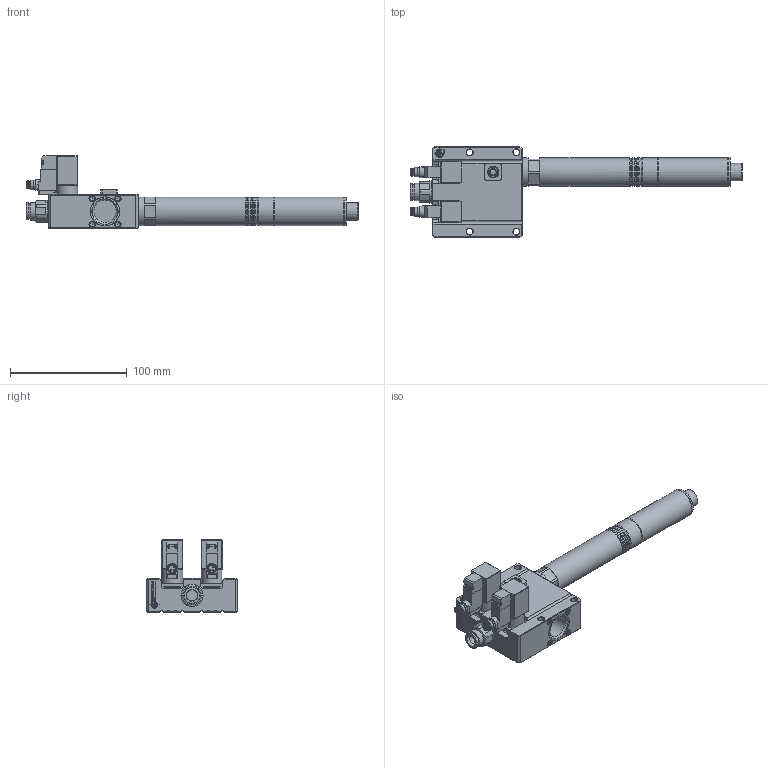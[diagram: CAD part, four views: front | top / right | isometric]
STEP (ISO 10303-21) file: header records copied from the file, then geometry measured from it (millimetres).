
FILE_DESCRIPTION (( 'STEP AP214' ), '1' );
FILE_NAME ('STEP - GRIP EV CS.STEP', '2023-12-20T13:44:11', ( '' ), ( '' ), 'SwSTEP 2.0', 'SolidWorks 2021', '' );
FILE_SCHEMA (( 'AUTOMOTIVE_DESIGN' ));
Length unit declared in the file: millimetre
Products named in the file (1): STEP - GRIP EV CS
Bounding box: 284.5 x 78 x 62.25 mm (x, y, z)
Volume: 275968.9 mm3; surface area: 66085.2 mm2
Topology: 18 solids, 27 shells, 2150 faces, 5651 edges, 3715 vertices
Faces by surface type: plane 1531, cylinder 323, bspline 172, cone 78, torus 38, sphere 8
Full cylindrical faces by diameter (mm): 1 x6, 1.2 x6, 1.5 x8, 2 x2, 2.9 x4, 3 x4, 3.8 x12, 4.2 x64, 5 x1, 5.5 x4, 5.8 x2, 6.6 x2, 6.9 x2, 7 x2, 7.8 x2, 8 x2, 9 x2, 9.44 x1, 10 x2, 11 x4, 11.3 x2, 11.7 x2, 12 x1, 12.15 x2, 13.3 x2, 14 x2, 14.2 x2, 14.5 x1, 14.76 x1, 14.86 x8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
Entity records: 112127 total; most frequent: CARTESIAN_POINT 40746, ORIENTED_EDGE 10250, DIRECTION 9009, EDGE_CURVE 5125, LINE 3967, VECTOR 3967, VERTEX_POINT 3483, EDGE_LOOP 2522
